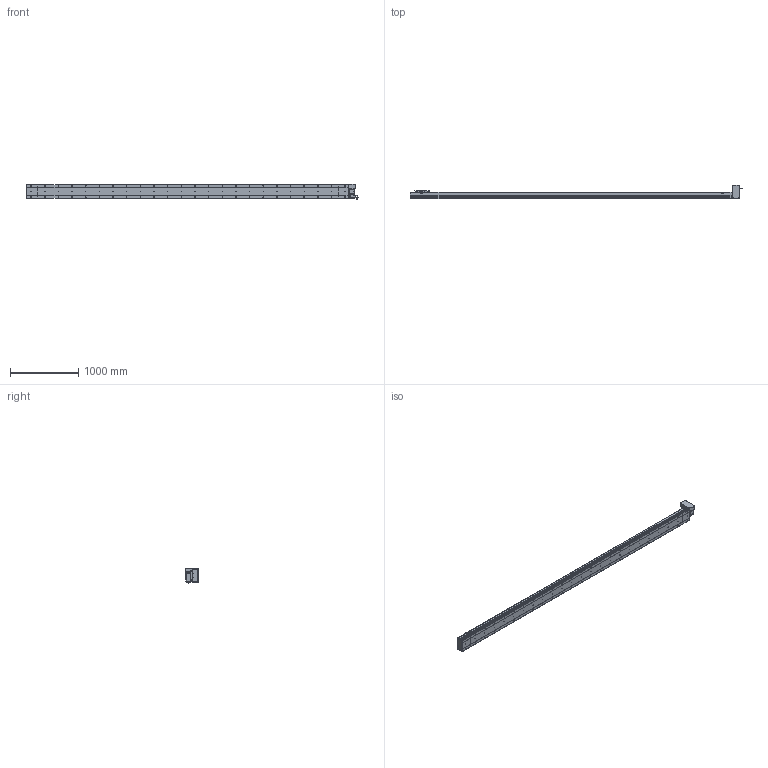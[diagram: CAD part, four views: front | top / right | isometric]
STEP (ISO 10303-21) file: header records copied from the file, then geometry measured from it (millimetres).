
FILE_DESCRIPTION (( 'STEP AP214' ), '1' );
FILE_NAME ('D20 CBH LT S4400.STEP', '2010-06-30T11:36:41', ( 'Conseil Régional Haute-Normandie' ), ( 'Conseil Régional Haute-Normandie' ), 'SwSTEP 2.0', 'SolidWorks 2010', '' );
FILE_SCHEMA (( 'AUTOMOTIVE_DESIGN' ));
Length unit declared in the file: millimetre
Products named in the file (31): Corp Tail D20 LT_Default; D20 CBH LT S4400; Support moteur LT_Default; Head LT_Default; Couvercle LT_Default; Plaque De Serrage D20 LT_Default; avant 90BLDC125A-640; Plaque de Bout Head D20 LT_Default; Moteur motionking 90BLDC125A-640; Rondelle Cache D20 LT_Default; corps 90BLDC125A-640; Conecteur2_Default; codeur 90BLDC125-640; vis M5 L30_Default; Corp D20 S4400_Default; Couvercle S4400_Default; vis M5 L47_Default; Chariot D20_Default; Corp S4400_Default; Glissiere_Default; Support Chariot D20_Default; Tail D20_Default; vis M5 L15_Default; Corp Tail D20_Default; Plaque De Serrage D20_Default; Couvercle_Default; Plaque de Bout Tail D20_Default; ecrou_Default; Cache Support Moteur LT_Default; Conecteur_Default
Assembly tree (66 placements, depth 4):
  D20 CBH LT S4400
    Head LT_Default
      Plaque de Bout Head D20 LT_Default
      vis M5 L15_Default  x12
      vis M5 L30_Default  x4
      vis M5 L47_Default  x4
      Rondelle Cache D20 LT_Default  x3
      Plaque De Serrage D20 LT_Default
      Support moteur LT_Default
      Moteur motionking 90BLDC125A-640
        Conecteur2_Default
        Conecteur_Default
        codeur 90BLDC125-640
        avant 90BLDC125A-640
        corps 90BLDC125A-640
      Couvercle LT_Default
      ecrou_Default  x4
      Corp Tail D20 LT_Default
      Cache Support Moteur LT_Default
    Tail D20_Default
      vis M5 L15_Default  x6
      Plaque De Serrage D20_Default
      Couvercle_Default
      Corp Tail D20_Default
      Plaque de Bout Tail D20_Default
    Chariot D20_Default
      Support Chariot D20_Default
      vis M5 L15_Default  x8
      Chariot D20_Default
      Glissiere_Default
    Corp D20 S4400_Default
      Couvercle S4400_Default
      Corp S4400_Default
Bounding box: 4863.45 x 202.5 x 229.7 mm (x, y, z)
Volume: 32009451.3 mm3; surface area: 6096051.9 mm2
Topology: 103 solids, 103 shells, 3891 faces, 9692 edges, 6304 vertices
Faces by surface type: plane 2134, bspline 806, cylinder 788, torus 91, cone 68, sphere 4
Entity records: 163750 total; most frequent: CARTESIAN_POINT 83731, ORIENTED_EDGE 15852, DIRECTION 12240, EDGE_CURVE 7926, VERTEX_POINT 5248, LINE 5018, VECTOR 5018, AXIS2_PLACEMENT_3D 3611
